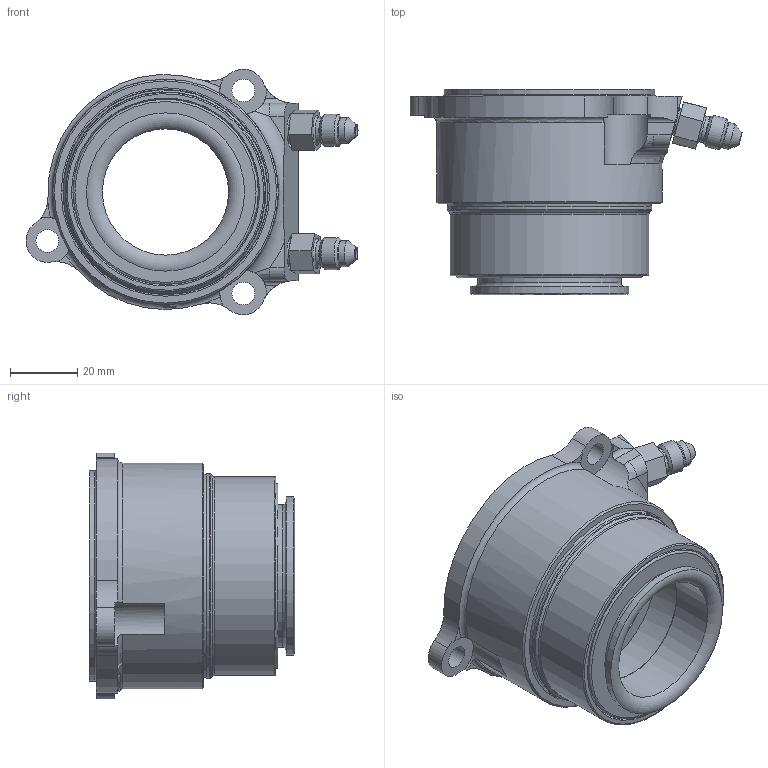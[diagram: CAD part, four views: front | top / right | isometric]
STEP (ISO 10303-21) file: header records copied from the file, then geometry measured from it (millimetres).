
FILE_DESCRIPTION(/* description */ ('Unknown'),/* implementation_level */ '2;1');
FILE_NAME(/* name */ '60-1250',/* time_stamp */ '2022-10-31T05:01:05-07:00',/* author */ ('Unknown'),/* organization */ ('Unknown'),/* preprocessor_version */ 'ST-DEVELOPER v16.7',/* originating_system */ 'DEX',/* authorisation */ $);
FILE_SCHEMA (('AUTOMOTIVE_DESIGN {1 0 10303 214 3 1 1}'));
Length unit declared in the file: millimetre
Products named in the file (1): 60-1250 ASSEMBLY
Bounding box: 98.64 x 61.02 x 72.99 mm (x, y, z)
Volume: 116769.9 mm3; surface area: 36332.9 mm2
Topology: 1 solids, 5 shells, 177 faces, 423 edges, 270 vertices
Faces by surface type: plane 58, cylinder 57, torus 31, cone 29, bspline 2
Full cylindrical faces by diameter (mm): 3.175 x4, 6.756 x3, 7.734 x4, 7.925 x4, 8.379 x4, 9.525 x2, 37.5 x1, 38.1 x1, 42.5 x1, 47 x1, 47.714 x1, 55 x2, 57.061 x1, 57.912 x1, 59.182 x1, 60.96 x1, 61.925 x1, 62.512 x1, 64.77 x1, 64.922 x1, 67.056 x1
Entity records: 5883 total; most frequent: CARTESIAN_POINT 1009, DIRECTION 798, ORIENTED_EDGE 582, AXIS2_PLACEMENT_3D 359, FACE_BOUND 303, EDGE_LOOP 301, EDGE_CURVE 291, VERTEX_POINT 234
